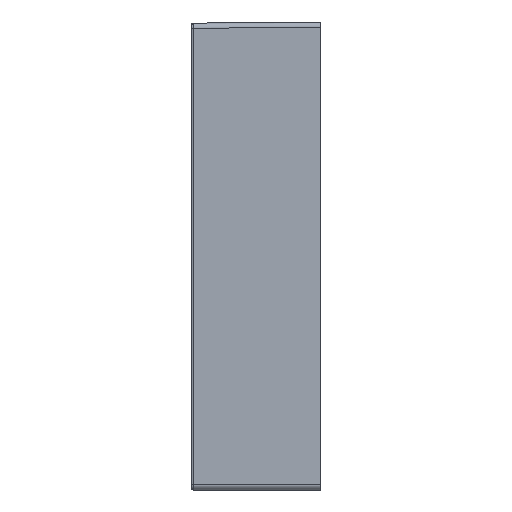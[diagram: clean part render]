
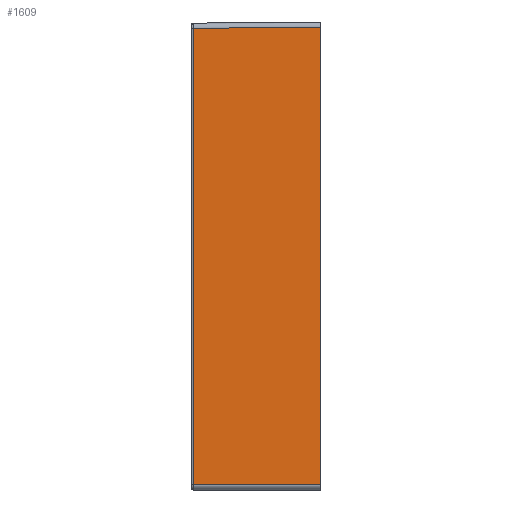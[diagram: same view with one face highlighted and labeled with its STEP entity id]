
A CAD part, left-side view. The second image highlights one B-rep face of the part: STEP entity #1609.
In plain terms, the highlighted planar face has unit normal (-1, 0.009, 0).
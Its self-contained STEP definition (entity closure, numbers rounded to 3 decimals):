
#286 = VERTEX_POINT ( 'NONE', #6200 ) ;
#961 = LINE ( 'NONE', #9332, #13899 ) ;
#1169 = LINE ( 'NONE', #7926, #21638 ) ;
#1387 = VERTEX_POINT ( 'NONE', #15060 ) ;
#1442 = FACE_OUTER_BOUND ( 'NONE', #22015, .T. ) ;
#1609 = ADVANCED_FACE ( 'NONE', ( #1442 ), #6831, .T. ) ;
#3280 = DIRECTION ( 'NONE',  ( -1., 0.009, 0. ) ) ;
#3960 = LINE ( 'NONE', #5785, #22395 ) ;
#4282 = DIRECTION ( 'NONE',  ( -0.009, -1., 0. ) ) ;
#4756 = VECTOR ( 'NONE', #7098, 1000. ) ;
#4902 = ORIENTED_EDGE ( 'NONE', *, *, #12378, .T. ) ;
#5785 = CARTESIAN_POINT ( 'NONE',  ( -235.966, 128.874, 243.966 ) ) ;
#6200 = CARTESIAN_POINT ( 'NONE',  ( -236.017, 123.017, -195. ) ) ;
#6581 = CARTESIAN_POINT ( 'NONE',  ( -236.017, 123.017, 244.017 ) ) ;
#6831 = PLANE ( 'NONE',  #20049 ) ;
#6969 = ORIENTED_EDGE ( 'NONE', *, *, #20586, .T. ) ;
#7098 = DIRECTION ( 'NONE',  ( 0., 0., -1. ) ) ;
#7926 = CARTESIAN_POINT ( 'NONE',  ( -237.091, 0., -200. ) ) ;
#9032 = CARTESIAN_POINT ( 'NONE',  ( -236.017, 123.017, -195. ) ) ;
#9332 = CARTESIAN_POINT ( 'NONE',  ( -236., 125., -195. ) ) ;
#9859 = DIRECTION ( 'NONE',  ( 0., 0., 1. ) ) ;
#10262 = VERTEX_POINT ( 'NONE', #6581 ) ;
#10477 = ORIENTED_EDGE ( 'NONE', *, *, #14026, .T. ) ;
#11218 = CARTESIAN_POINT ( 'NONE',  ( -237.091, 0., 245.091 ) ) ;
#12197 = VERTEX_POINT ( 'NONE', #11218 ) ;
#12378 = EDGE_CURVE ( 'NONE', #10262, #286, #22529, .T. ) ;
#13899 = VECTOR ( 'NONE', #4282, 1000. ) ;
#13998 = ORIENTED_EDGE ( 'NONE', *, *, #19339, .T. ) ;
#14026 = EDGE_CURVE ( 'NONE', #286, #1387, #961, .T. ) ;
#15060 = CARTESIAN_POINT ( 'NONE',  ( -237.091, 0., -195. ) ) ;
#18013 = DIRECTION ( 'NONE',  ( 0.009, 1., -0.009 ) ) ;
#18932 = DIRECTION ( 'NONE',  ( -0.009, -1., 0. ) ) ;
#19268 = CARTESIAN_POINT ( 'NONE',  ( -236., 125., -200. ) ) ;
#19339 = EDGE_CURVE ( 'NONE', #1387, #12197, #1169, .T. ) ;
#20049 = AXIS2_PLACEMENT_3D ( 'NONE', #19268, #3280, #18932 ) ;
#20586 = EDGE_CURVE ( 'NONE', #12197, #10262, #3960, .T. ) ;
#21638 = VECTOR ( 'NONE', #9859, 1000. ) ;
#22015 = EDGE_LOOP ( 'NONE', ( #6969, #4902, #10477, #13998 ) ) ;
#22395 = VECTOR ( 'NONE', #18013, 1000. ) ;
#22529 = LINE ( 'NONE', #9032, #4756 ) ;
